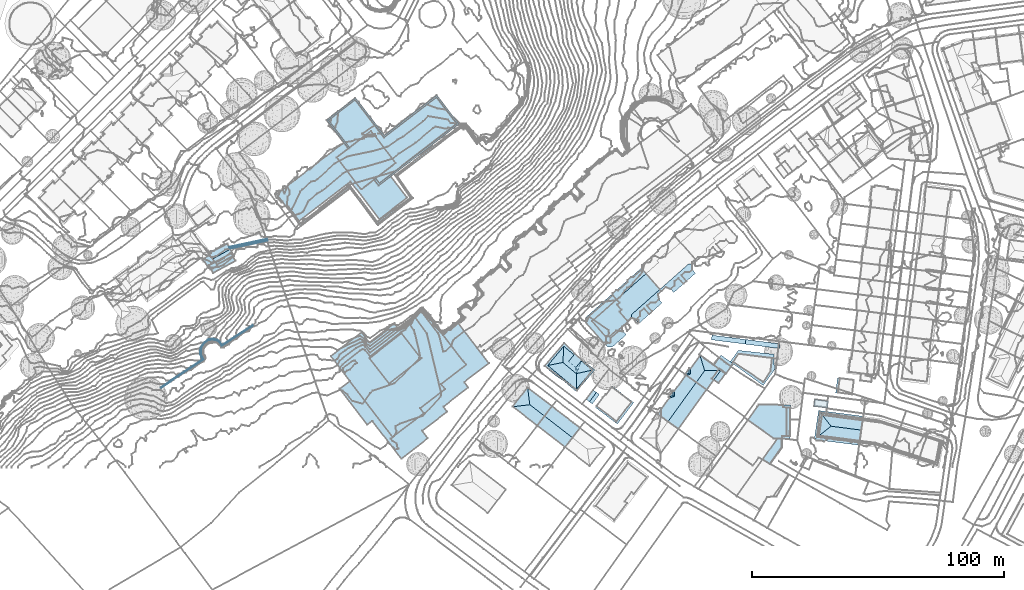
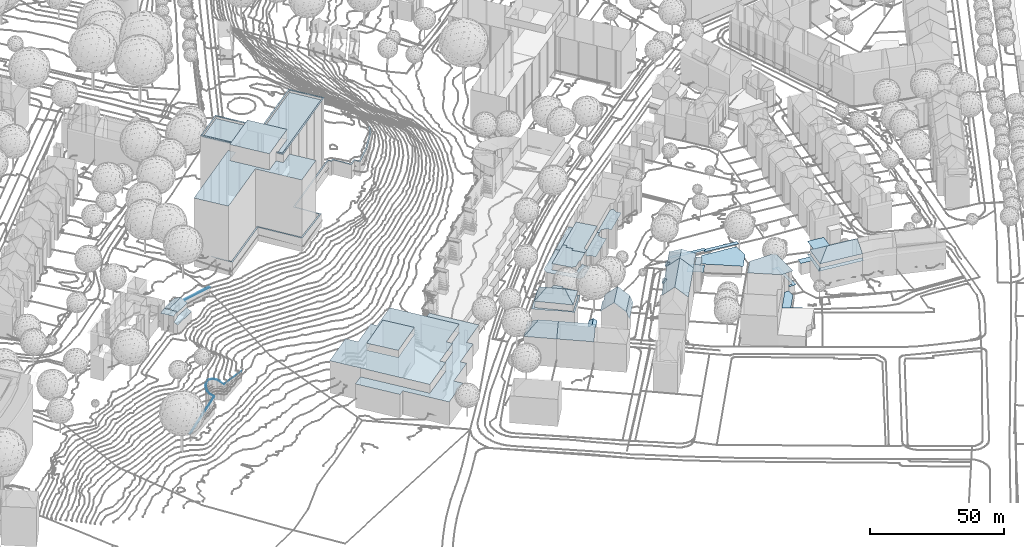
# Not in any storey, part 65 of 494: 38 roofs.
"""IFC2X3 model written with IfcOpenShell, lengths in metres."""

from ifc_helpers import new_model, si_unit, frame, origin_with_axes, place, context, subcontext, project, faceted_brep, element, save


model = new_model("IFC2X3")

# Units and contexts
model_context = context("Model", 3, precision=1e-05, world=origin_with_axes())
body_context = subcontext(model_context, "Body", "Model", "MODEL_VIEW")
ifc_project = project(units=[si_unit("AREAUNIT", "SQUARE_METRE"), si_unit("LENGTHUNIT", "METRE")], contexts=[model_context])

# Roofs
roof_1_placement = place(None, frame((340.8067320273, 67.2771160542, 499.5586), z_axis=(0.0, 0.0, 1.0), x_axis=(1.0, 0.0, 0.0)))
element("IfcRoof", 1, at=roof_1_placement, Name="Roof 0", ShapeType="NOTDEFINED", context=body_context, shape_type="Brep", body=[
    faceted_brep([(18.5399999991, -1.9267000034, 12.5587), (18.0460000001, 0.2822999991, 12.5587), (15.7719999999, -6.5732000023, 12.5587), (19.6270000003, -3.1523000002, 12.5587), (10.3849999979, -11.3564000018, 12.5587), (7.5209999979, -7.7851000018, 12.5587), (19.4529999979, 1.5312999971, 12.5587), (18.8200000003, 2.2441999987, 12.5587), (7.5929999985, -9.2568000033, 12.5587), (8.8339999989, -9.6103000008, 12.5587)], [[[0, 1, 2]], [[3, 0, 2]], [[4, 2, 5]], [[6, 7, 1]], [[1, 7, 5]], [[2, 1, 5]], [[5, 8, 9]], [[5, 9, 4]]]),
])
roof_2_placement = place(None, frame((340.8067320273, 67.2771160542, 499.5586), z_axis=(0.0, 0.0, 1.0), x_axis=(1.0, 0.0, 0.0)))
element("IfcRoof", 2, at=roof_2_placement, Name="Roof 1", ShapeType="NOTDEFINED", context=body_context, shape_type="Brep", body=[
    faceted_brep([(5.9439999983, 5.8046999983, 12.5588), (1.6530000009, -1.8671000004, 12.5588), (13.2949999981, 8.4668999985, 12.5588), (1.4869999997, 1.8486999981, 12.5588), (-0.262000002, 0.2959999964, 12.5588), (7.3550000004, 7.0566999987, 12.5588), (11.3770000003, 10.6269999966, 12.5588)], [[[0, 1, 2]], [[3, 4, 1]], [[5, 2, 6]], [[3, 1, 0]], [[0, 2, 5]]]),
])
roof_3_placement = place(None, frame((340.8067320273, 67.2771160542, 499.5586), z_axis=(0.0, 0.0, 1.0), x_axis=(1.0, 0.0, 0.0)))
element("IfcRoof", 3, at=roof_3_placement, Name="Roof 2", ShapeType="NOTDEFINED", context=body_context, shape_type="Brep", body=[
    faceted_brep([(13.2949999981, 8.4667999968, 15.3595), (1.6530000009, -1.8671000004, 15.3595), (2.7839999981, -3.1435000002, 15.3595), (7.5209999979, -7.7851000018, 15.3595), (18.8200000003, 2.2441999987, 15.3595), (3.6270000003, -5.9501000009, 15.3595), (6.2359999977, -10.5556000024, 15.3595), (7.5969999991, -9.3476000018, 15.3595), (2.8039999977, -6.6796000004, 15.3595), (1.862999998, -3.9589000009, 15.3595)], [[[0, 1, 2]], [[3, 4, 5]], [[0, 5, 4]], [[2, 5, 0]], [[3, 6, 7]], [[5, 8, 3]], [[3, 8, 6]], [[5, 2, 9]]]),
])
roof_4_placement = place(None, frame((330.2977320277, 56.1951160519, 500.0165), z_axis=(0.0, 0.0, 1.0), x_axis=(1.0, 0.0, 0.0)))
element("IfcRoof", 4, at=roof_4_placement, Name="Roof 0", ShapeType="NOTDEFINED", context=body_context, shape_type="Brep", body=[
    faceted_brep([(2.4809999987, 0.6220999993, 12.1009), (12.1620000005, 9.2149000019, 12.1009), (10.2469999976, 11.3779000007, 12.1009), (12.6629999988, -3.0986000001, 12.1008), (14.3640000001, -2.9472000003, 12.1008), (14.3189999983, -1.6279000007, 12.1008), (15.9149999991, -4.6942999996, 12.1008), (12.0229999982, -3.1611000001, 12.1008), (10.5579999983, -9.4501999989, 12.1008), (-0.0140000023, 2.2705000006, 12.1009), (-0.120000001, 0.134800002, 12.1009), (7.6979999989, -5.254900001, 12.1008), (9.4509999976, -5.4442999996, 12.1008), (6.9910000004, -7.8768999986, 12.1008), (8.5199999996, -9.5995999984, 12.1008)], [[[0, 1, 2]], [[3, 4, 5]], [[4, 3, 6]], [[6, 3, 7]], [[7, 8, 6]], [[0, 9, 10]], [[9, 0, 2]], [[0, 10, 11]], [[12, 11, 8]], [[8, 13, 14]], [[13, 8, 11]], [[11, 10, 13]], [[12, 8, 7]]]),
])
roof_5_placement = place(None, frame((330.2977320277, 56.1951160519, 500.0165), z_axis=(0.0, 0.0, 1.0), x_axis=(1.0, 0.0, 0.0)))
element("IfcRoof", 5, at=roof_5_placement, Name="Roof 1", ShapeType="NOTDEFINED", context=body_context, shape_type="Brep", body=[
    faceted_brep([(12.1620000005, 9.2149000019, 14.9016), (12.3719999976, 7.1231000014, 14.9016), (13.2929999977, 7.938500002, 14.9016), (2.4809999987, 0.6220999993, 14.9016), (14.1359999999, 5.1319000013, 14.9016), (13.3129999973, 4.4024000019, 14.9016), (12.0229999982, -3.1611000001, 14.9016), (7.6979999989, -5.254900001, 14.9016), (12.6629999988, -3.0986000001, 14.9016), (9.4509999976, -5.4442999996, 14.9016), (16.7449999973, 0.5263999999, 14.9016)], [[[0, 1, 2]], [[1, 0, 3]], [[4, 1, 5]], [[1, 3, 5]], [[6, 3, 7]], [[8, 5, 6]], [[6, 7, 9]], [[8, 10, 5]], [[6, 5, 3]]]),
])
roof_6_placement = place(None, frame((352.5117320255, 77.5340160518, 499.5586), z_axis=(0.0, 0.0, 1.0), x_axis=(1.0, 0.0, 0.0)))
element("IfcRoof", 6, at=roof_6_placement, Name="Roof 0", ShapeType="NOTDEFINED", context=body_context, shape_type="Brep", body=[
    faceted_brep([(21.1750000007, -1.6455000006, 12.5587), (19.9140000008, -0.2245999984, 12.5587), (16.4270000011, -5.8603999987, 12.5587), (11.4640000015, -8.0742000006, 12.5587), (12.5510000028, -9.2998000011, 12.5587), (9.3599999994, -7.2949000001, 12.5587), (19.8509999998, 1.9219000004, 12.5587), (18.5270000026, 2.1182000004, 12.5587), (7.1150000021, -8.0126999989, 12.5587), (7.7479999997, -8.7256000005, 12.5587)], [[[0, 1, 2]], [[2, 3, 4]], [[3, 2, 1]], [[5, 1, 6]], [[5, 6, 7]], [[5, 3, 1]], [[8, 9, 5]], [[5, 7, 8]]]),
])
roof_7_placement = place(None, frame((388.6417320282, 40.6092160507, 499.4665), z_axis=(0.0, 0.0, 1.0), x_axis=(1.0, 0.0, 0.0)))
element("IfcRoof", 7, at=roof_7_placement, Name="Roof 0", ShapeType="NOTDEFINED", context=body_context, shape_type="Brep", body=[
    faceted_brep([(2.0449999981, 4.6855000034, 5.8824), (-1.2030000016, 0.1748000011, 5.8824), (11.8759999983, -9.2441999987, 5.8824), (16.3559999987, -3.0253999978, 5.8824), (16.0639999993, 3.1279000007, 5.8824)], [[[0, 1, 2]], [[0, 3, 4]], [[3, 0, 2]]]),
])
roof_8_placement = place(None, frame((369.4907320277, 35.7234160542, 499.6315), z_axis=(0.0, 0.0, 1.0), x_axis=(1.0, 0.0, 0.0)))
element("IfcRoof", 8, at=roof_8_placement, Name="Roof 0", ShapeType="NOTDEFINED", context=body_context, shape_type="Brep", body=[
    faceted_brep([(13.6149999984, 2.3232999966, 12.0918), (13.4670000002, 2.1171999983, 12.0918), (14.1779999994, 1.6035999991, 12.0918), (16.2009999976, 0.4609999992, 12.0918), (13.237999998, -3.6523000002, 12.0918), (11.3649999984, -2.3027000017, 12.0918)], [[[0, 1, 2]], [[3, 2, 4]], [[2, 3, 0]], [[5, 4, 2]]]),
])
roof_9_placement = place(None, frame((369.4907320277, 35.7234160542, 499.6315), z_axis=(0.0, 0.0, 1.0), x_axis=(1.0, 0.0, 0.0)))
element("IfcRoof", 9, at=roof_9_placement, Name="Roof 1", ShapeType="NOTDEFINED", context=body_context, shape_type="Brep", body=[
    faceted_brep([(19.2829999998, 4.0986999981, 5.3015), (16.2009999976, 0.4609999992, 5.3015), (16.4129999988, -0.004800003, 5.3015), (13.6149999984, 2.3232999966, 5.3015), (16.0519999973, 0.2548999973, 5.3015), (14.3460000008, 7.6523999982, 5.3015), (11.4210000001, 3.5898999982, 5.3015), (13.4670000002, 2.1171999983, 5.3015)], [[[0, 1, 2]], [[1, 0, 3]], [[4, 2, 1]], [[5, 3, 0]], [[3, 6, 7]], [[6, 3, 5]]]),
])
roof_10_placement = place(None, frame((369.4907320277, 35.7234160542, 499.6315), z_axis=(0.0, 0.0, 1.0), x_axis=(1.0, 0.0, 0.0)))
element("IfcRoof", 10, at=roof_10_placement, Name="Roof 2", ShapeType="NOTDEFINED", context=body_context, shape_type="Brep", body=[
    faceted_brep([(7.8079999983, 1.5029999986, 18.1722), (2.1369999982, 0.1005999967, 14.9805), (4.4399999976, -3.1738000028, 18.1722), (8.5969999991, -6.1464000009, 13.9786), (14.1779999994, 1.6035999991, 13.9786), (5.9979999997, 7.495199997, 13.9786), (11.4210000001, 3.5898999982, 13.9786), (2.1679999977, 2.1728999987, 13.9786), (0.5480000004, -0.3916000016, 14.1346), (1.6199999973, 0.4736999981, 14.9805), (0.0249999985, -0.0175000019, 14.1326), (1.7650000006, 2.4628999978, 13.9786), (1.6469999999, 2.5478999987, 13.9786), (0.0, 0.0, 14.1066), (-0.1240000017, 0.0888999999, 13.9786)], [[[0, 1, 2]], [[2, 3, 0]], [[4, 0, 3]], [[5, 0, 6]], [[0, 4, 6]], [[0, 5, 7]], [[0, 7, 1]], [[8, 2, 1]], [[1, 9, 8]], [[10, 8, 9]], [[9, 1, 11]], [[11, 1, 7]], [[11, 12, 9]], [[12, 10, 9]], [[13, 10, 12]], [[14, 13, 12]]]),
])
roof_11_placement = place(None, frame((313.8287320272, 39.0809160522, 500.1915), z_axis=(0.0, 0.0, 1.0), x_axis=(1.0, 0.0, 0.0)))
element("IfcRoof", 11, at=roof_11_placement, Name="Roof 0", ShapeType="NOTDEFINED", context=body_context, shape_type="Brep", body=[
    faceted_brep([(7.5929999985, 7.8104999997, 14.0566), (7.2650000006, 1.3905999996, 17.9583), (11.6629999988, 4.4257000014, 14.0566), (1.2569999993, 0.1981999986, 14.4256), (12.5889999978, -3.0401000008, 17.9583), (12.5839999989, -9.2294999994, 14.4256), (9.4979999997, 1.8242000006, 16.6284), (12.3999999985, -0.5909000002, 16.6284), (9.8539999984, 2.2518999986, 16.2054), (14.7749999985, 2.2626999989, 15.1405), (14.9639999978, 2.4891999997, 15.0225), (12.0370000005, 4.8768999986, 15.0365), (14.5649999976, 2.0106999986, 15.2725), (11.6629999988, 4.4257000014, 15.2725), (12.0599999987, 4.9052000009, 15.0225), (13.3819999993, 0.5888000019, 15.8135), (14.5649999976, 2.0106999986, 14.8316), (18.2580000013, -1.0645000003, 14.1746), (18.8499999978, -1.628899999, 14.0986), (18.9189999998, -1.6143000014, 14.0566), (18.881000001, -1.6592000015, 14.0586)], [[[0, 1, 2]], [[0, 3, 1]], [[1, 3, 4]], [[5, 4, 3]], [[6, 1, 7]], [[4, 7, 1]], [[8, 2, 1]], [[1, 6, 8]], [[9, 10, 11]], [[7, 12, 13]], [[9, 13, 12]], [[14, 11, 10]], [[13, 6, 7]], [[11, 13, 9]], [[7, 4, 15]], [[16, 15, 4]], [[16, 4, 17]], [[17, 18, 19]], [[18, 17, 4]], [[4, 5, 18]], [[20, 19, 18]], [[20, 18, 5]]]),
])
roof_12_placement = place(None, frame((313.8287320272, 39.0809160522, 500.1915), z_axis=(0.0, 0.0, 1.0), x_axis=(1.0, 0.0, 0.0)))
element("IfcRoof", 12, at=roof_12_placement, Name="Roof 1", ShapeType="NOTDEFINED", context=body_context, shape_type="Brep", body=[
    faceted_brep([(12.0370000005, 4.8768999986, 11.5769), (12.0599999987, 4.9052000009, 11.5769), (10.4340000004, 6.7362999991, 11.5769), (7.5929999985, 7.8104999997, 11.5769), (11.6629999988, 4.4257000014, 11.5769), (14.9639999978, 2.4891999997, 11.5769), (7.7670000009, 8.9550000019, 11.5769), (14.7749999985, 2.2626999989, 11.5769), (16.6689999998, 1.0683000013, 11.5769), (14.5649999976, 2.0106999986, 11.5769), (19.8640000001, -1.5888999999, 11.5769), (18.2580000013, -1.0645000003, 11.5769), (7.5520000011, 9.1356999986, 11.5769), (7.7769999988, -6.1495000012, 11.5769), (1.2569999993, 0.1981999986, 11.5769), (4.6079999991, -4.053799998, 11.5769), (-0.137000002, -0.1055000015, 11.5769), (12.5839999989, -9.2294999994, 11.5769), (18.881000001, -1.6592000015, 11.5769), (12.6770000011, -10.2265999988, 11.5769)], [[[0, 1, 2]], [[2, 3, 4]], [[1, 0, 5]], [[4, 0, 2]], [[3, 2, 6]], [[5, 7, 8]], [[5, 0, 7]], [[9, 8, 7]], [[10, 8, 11]], [[6, 12, 3]], [[13, 14, 15]], [[14, 16, 15]], [[14, 3, 12]], [[14, 13, 17]], [[12, 16, 14]], [[11, 18, 10]], [[17, 13, 19]], [[19, 10, 17]], [[17, 10, 18]], [[9, 11, 8]]]),
])
roof_13_placement = place(None, frame((207.679732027, 107.243916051, 526.7712), z_axis=(0.0, 0.0, 1.0), x_axis=(1.0, 0.0, 0.0)))
element("IfcRoof", 13, at=roof_13_placement, Name="Roof 0", ShapeType="NOTDEFINED", context=body_context, shape_type="Brep", body=[
    faceted_brep([(40.6779999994, 4.3300999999, 33.9067), (47.1919999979, 12.3399000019, 33.9067), (39.2280000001, 6.2159000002, 33.9067), (71.3779999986, 27.9375, 33.9066), (20.5119999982, 29.2872000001, 33.9067), (28.8579999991, 18.4317000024, 33.9067), (37.4360000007, 25.0274000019, 33.9067), (42.5370000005, 22.4581000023, 33.9067), (63.3079999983, 38.4307000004, 33.9067), (31.0529999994, 37.3925999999, 33.9067)], [[[0, 1, 2]], [[1, 0, 3]], [[4, 5, 6]], [[6, 1, 7]], [[1, 8, 7]], [[8, 1, 3]], [[7, 9, 6]], [[6, 9, 4]]]),
])
roof_14_placement = place(None, frame((207.679732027, 107.243916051, 526.7712), z_axis=(0.0, 0.0, 1.0), x_axis=(1.0, 0.0, 0.0)))
element("IfcRoof", 14, at=roof_14_placement, Name="Roof 1", ShapeType="NOTDEFINED", context=body_context, shape_type="Brep", body=[
    faceted_brep([(47.1919999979, 12.3399000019, 38.4992), (37.4360000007, 25.0274000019, 38.4992), (23.7820000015, 14.5263999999, 38.4992), (33.5379999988, 1.8399000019, 38.4992)], [[[0, 1, 2]], [[2, 3, 0]]]),
])
roof_15_placement = place(None, frame((207.679732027, 107.243916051, 526.7712), z_axis=(0.0, 0.0, 1.0), x_axis=(1.0, 0.0, 0.0)))
element("IfcRoof", 15, at=roof_15_placement, Name="Roof 2", ShapeType="NOTDEFINED", context=body_context, shape_type="Brep", body=[
    faceted_brep([(63.3889999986, 39.2862000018, 34.8936), (55.8299999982, 33.4737000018, 34.8936), (63.3079999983, 38.4307000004, 34.8936), (55.4890000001, 33.2110000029, 34.8936), (72.2039999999, 27.8203999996, 34.8936), (42.5370000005, 22.4581000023, 34.8936), (49.7219999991, 28.7745000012, 34.8936), (42.6160000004, 23.3106000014, 34.8936), (71.3779999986, 27.9375, 34.8936), (40.6779999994, 4.3300999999, 34.8936), (61.5009999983, 19.5899000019, 34.8936), (52.5949999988, 12.7413000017, 34.8936), (32.5469999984, 36.4043000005, 34.8936), (31.0529999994, 37.3925999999, 34.8936), (31.1640000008, 38.202200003, 34.8936), (20.5119999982, 29.2872000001, 34.8936), (19.7069999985, 29.389700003, 34.8936), (28.4019999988, 18.0821000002, 34.8936), (28.8579999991, 18.4317000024, 34.8936), (40.4290000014, 3.3858000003, 34.8936), (39.2280000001, 6.2159000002, 34.8936), (38.6160000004, 5.7432000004, 34.8936)], [[[0, 1, 2]], [[3, 2, 1]], [[0, 2, 4]], [[5, 2, 6]], [[7, 5, 6]], [[6, 2, 3]], [[8, 9, 10]], [[8, 4, 2]], [[4, 8, 10]], [[11, 10, 9]], [[7, 12, 13]], [[14, 13, 12]], [[15, 13, 16]], [[17, 15, 16]], [[16, 13, 14]], [[17, 18, 15]], [[19, 11, 9]], [[20, 21, 9]], [[19, 9, 21]], [[13, 5, 7]]]),
])
roof_16_placement = place(None, frame((207.679732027, 107.243916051, 526.7712), z_axis=(0.0, 0.0, 1.0), x_axis=(1.0, 0.0, 0.0)))
element("IfcRoof", 16, at=roof_16_placement, Name="Roof 3", ShapeType="NOTDEFINED", context=body_context, shape_type="Brep", body=[
    faceted_brep([(51.7039999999, -1.4736000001, 31.2029), (45.1660000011, 7.0274000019, 31.2029), (40.4290000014, 3.3858000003, 31.2029), (40.7190000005, -9.9217999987, 31.2029), (13.5229999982, 10.5205000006, 31.2029), (29.2599999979, 4.9786000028, 31.2029), (23.7820000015, 14.5263999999, 31.2029), (38.6160000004, 5.7432000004, 31.2029), (33.5379999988, 1.8399000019, 31.2029), (-0.057, 0.0752000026, 31.2029), (8.4690000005, -11.0126999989, 31.2029), (7.1279999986, 5.6006000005, 31.2029), (7.5779999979, 5.9483000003, 31.2029), (28.4019999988, 18.0821000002, 31.2029), (26.5260000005, 20.5205000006, 31.2029), (13.1909999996, 10.264700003, 31.2029)], [[[0, 1, 2]], [[0, 2, 3]], [[4, 5, 6]], [[2, 7, 8]], [[5, 8, 6]], [[3, 8, 5]], [[8, 3, 2]], [[9, 10, 11]], [[12, 10, 5]], [[6, 13, 14]], [[4, 6, 14]], [[15, 5, 4]], [[12, 11, 10]], [[15, 12, 5]]]),
])
roof_17_placement = place(None, frame((211.8297320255, 101.9383160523, 526.7541), z_axis=(0.0, 0.0, 1.0), x_axis=(1.0, 0.0, 0.0)))
element("IfcRoof", 17, at=roof_17_placement, Name="Roof 53", ShapeType="NOTDEFINED", context=body_context, shape_type="Brep", body=[
    faceted_brep([(181.8260000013, -52.3467000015, -22.4111), (181.5910000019, -54.183600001, -22.2671), (195.4570000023, -54.0927999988, -22.4111), (195.2220000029, -55.9296999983, -22.2671)], [[[0, 1, 2]], [[3, 2, 1]]]),
])
roof_18_placement = place(None, frame((211.8297320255, 101.9383160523, 526.7541), z_axis=(0.0, 0.0, 1.0), x_axis=(1.0, 0.0, 0.0)))
element("IfcRoof", 18, at=roof_18_placement, Name="Roof 54", ShapeType="NOTDEFINED", context=body_context, shape_type="Brep", body=[
    faceted_brep([(182.0930000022, -54.2481000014, -21.5472), (182.3289999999, -52.4101999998, -21.8351), (168.1480000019, -52.4618999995, -21.5471), (168.3830000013, -50.625, -21.8351)], [[[0, 1, 2]], [[3, 2, 1]]]),
])
roof_19_placement = place(None, frame((211.8297320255, 101.9383160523, 526.7541), z_axis=(0.0, 0.0, 1.0), x_axis=(1.0, 0.0, 0.0)))
element("IfcRoof", 19, at=roof_19_placement, Name="Roof 55", ShapeType="NOTDEFINED", context=body_context, shape_type="Brep", body=[
    faceted_brep([(68.9820000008, 31.8183000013, 6.5044), (42.7239999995, 12.7030999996, 6.2064), (43.5920000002, 12.5654000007, 6.2064), (69.0769999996, 32.6875, 6.5044), (24.8300000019, 7.7958999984, 6.2064), (35.5850000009, -6.5419999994, 6.2064), (35.7190000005, -5.6611999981, 6.2064), (5.2149999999, -7.1689999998, 6.2064), (5.3460000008, -6.2685999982, 6.2064), (0.0, 0.0, 6.2064), (0.5140000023, 0.3740000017, 6.2064), (24.9539999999, 8.6893999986, 6.2064), (48.870000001, 3.8192999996, 6.2064), (49.7470000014, 3.6680000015, 6.2064), (75.2160000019, 25.1708999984, 6.5044), (75.3410000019, 26.0830000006, 6.5044), (70.7380000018, 31.3691000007, 6.5044), (77.5540000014, 27.0381000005, 6.5044), (70.8990000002, 32.2324000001, 6.5044), (69.8550000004, 30.7969000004, 6.5044), (69.9759999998, 31.6328000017, 6.5044), (78.9220000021, 25.1425999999, 6.5044), (79.0080000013, 26.1094000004, 6.5044), (85.6270000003, 31.621100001, 6.5044), (85.1559999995, 32.0498000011, 6.5044), (91.6669999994, 40.2412, 6.5044), (92.2200000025, 39.9149999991, 6.5044), (93.6900000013, 43.4589999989, 6.5044), (77.6790000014, 27.9521000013, 6.5044), (93.1030000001, 43.7021000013, 6.5044)], [[[0, 1, 2]], [[3, 1, 0]], [[4, 5, 6]], [[7, 4, 8]], [[9, 8, 10]], [[8, 9, 7]], [[8, 4, 11]], [[5, 12, 6]], [[12, 5, 13]], [[12, 13, 2]], [[12, 2, 1]], [[11, 4, 6]], [[14, 15, 16]], [[17, 15, 14]], [[15, 18, 16]], [[0, 19, 20]], [[20, 19, 16]], [[20, 3, 0]], [[16, 18, 20]], [[17, 21, 22]], [[23, 24, 22]], [[24, 23, 25]], [[25, 26, 27]], [[26, 25, 23]], [[17, 22, 28]], [[25, 27, 29]], [[17, 28, 15]], [[23, 22, 21]]]),
])
roof_20_placement = place(None, frame((211.8297320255, 101.9383160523, 526.7541), z_axis=(0.0, 0.0, 1.0), x_axis=(1.0, 0.0, 0.0)))
element("IfcRoof", 20, at=roof_20_placement, Name="Roof 56", ShapeType="NOTDEFINED", context=body_context, shape_type="Brep", body=[
    faceted_brep([(122.5380000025, -73.3037, -20.3052), (121.2270000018, -72.3379000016, -21.2761), (118.4670000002, -76.0830000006, -21.2761), (119.7790000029, -77.0487999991, -20.3052), (123.6960000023, -74.1563000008, -21.2761), (120.9370000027, -77.9013999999, -21.2761)], [[[0, 1, 2]], [[2, 3, 0]], [[4, 0, 5]], [[0, 3, 5]]]),
])
roof_21_placement = place(None, frame((211.8297320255, 101.9383160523, 526.7541), z_axis=(0.0, 0.0, 1.0), x_axis=(1.0, 0.0, 0.0)))
element("IfcRoof", 21, at=roof_21_placement, Name="Roof 57", ShapeType="NOTDEFINED", context=body_context, shape_type="Brep", body=[
    faceted_brep([(-23.0159999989, -15.6611000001, 3.1257), (-22.9919999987, -15.7754000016, 3.1257), (-7.9979999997, -12.4395000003, 3.0267), (-22.7009999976, -16.3310999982, 3.1247), (-7.8469999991, -13.1435999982, 3.0267)], [[[0, 1, 2]], [[1, 3, 4]], [[4, 2, 1]]]),
])
roof_22_placement = place(None, frame((211.8297320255, 101.9383160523, 526.7541), z_axis=(0.0, 0.0, 1.0), x_axis=(1.0, 0.0, 0.0)))
element("IfcRoof", 22, at=roof_22_placement, Name="Roof 58", ShapeType="NOTDEFINED", context=body_context, shape_type="Brep", body=[
    faceted_brep([(-27.7089999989, -52.5527999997, -8.0502), (-29.6769999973, -52.0634999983, -7.3303), (-29.6919999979, -52.4120999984, -7.3303), (-31.5610000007, -52.3574000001, -6.8983), (-31.4149999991, -52.6816999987, -6.8983), (-32.8939999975, -53.9004000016, -6.7544), (-33.1439999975, -53.6620999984, -6.7544), (-34.2329999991, -55.125, -7.1863), (-26.0409999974, -54.9580000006, -9.6341), (-26.367999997, -53.6319000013, -9.2021), (-26.6359999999, -53.8544999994, -9.2021), (-27.8649999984, -52.8671999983, -8.0502), (-13.8379999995, -46.5898999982, -12.6568), (-25.9169999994, -54.4677999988, -9.6341), (-13.6510000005, -46.8759999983, -12.6568), (-34.2349999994, -56.6416000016, -7.9062), (-34.6169999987, -58.1572000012, -8.6262), (-34.2729999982, -58.0879000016, -8.6262), (-34.5759999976, -56.5976999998, -7.9062), (-33.7829999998, -59.1513999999, -8.9142), (-33.9159999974, -55.2714999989, -7.1863), (-33.1519999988, -60.2930000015, -9.2021), (-34.0889999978, -59.3066999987, -8.9142), (-33.6050000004, -60.182599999, -9.2021), (-50.3090000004, -71.3280999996, -13.5207), (-50.118999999, -71.6132999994, -13.5207)], [[[0, 1, 2]], [[1, 3, 2]], [[2, 3, 4]], [[3, 5, 4]], [[3, 6, 5]], [[6, 7, 5]], [[8, 9, 10]], [[9, 0, 10]], [[10, 0, 11]], [[0, 2, 11]], [[8, 12, 13]], [[9, 8, 13]], [[12, 8, 14]], [[15, 16, 17]], [[16, 15, 18]], [[16, 19, 17]], [[15, 7, 18]], [[7, 15, 20]], [[5, 7, 20]], [[21, 22, 23]], [[21, 24, 25]], [[24, 21, 23]], [[21, 19, 22]], [[16, 22, 19]]]),
])
roof_23_placement = place(None, frame((386.5667320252, 6.5633160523, 499.0235), z_axis=(0.0, 0.0, 1.0), x_axis=(1.0, 0.0, 0.0)))
element("IfcRoof", 23, at=roof_23_placement, Name="Roof 1", ShapeType="NOTDEFINED", context=body_context, shape_type="Brep", body=[
    faceted_brep([(16.6450000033, -6.1513999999, 5.3904), (13.6840000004, -4.6748000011, 5.3905), (21.1600000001, -8.9180000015, 5.3904), (19.6400000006, 3.691399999, 5.3905), (21.2810000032, 0.3359000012, 5.3905), (21.393000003, 3.6981999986, 5.3905)], [[[0, 1, 2]], [[1, 0, 3]], [[3, 0, 4]], [[3, 4, 5]]]),
])
roof_24_placement = place(None, frame((394.4647320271, 17.5984160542, 499.0235), z_axis=(0.0, 0.0, 1.0), x_axis=(1.0, 0.0, 0.0)))
element("IfcRoof", 24, at=roof_24_placement, Name="Roof 0", ShapeType="NOTDEFINED", context=body_context, shape_type="Brep", body=[
    faceted_brep([(13.6490000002, -6.4091000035, 7.1923), (13.6359999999, -7.3623000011, 7.1923), (15.3619999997, -6.4326000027, 7.1923), (13.938000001, 5.995199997, 7.1923), (13.9409999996, 5.0370999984, 7.1923), (15.4910000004, 5.0146999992, 7.1923), (16.6469999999, -7.3974000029, 7.1923), (16.7989999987, 5.9619999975, 7.1923)], [[[0, 1, 2]], [[3, 4, 5]], [[6, 2, 1]], [[2, 6, 5]], [[7, 5, 6]], [[5, 7, 3]]]),
])
roof_25_placement = place(None, frame((394.4647320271, 17.5984160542, 499.0235), z_axis=(0.0, 0.0, 1.0), x_axis=(1.0, 0.0, 0.0)))
element("IfcRoof", 25, at=roof_25_placement, Name="Roof 1", ShapeType="NOTDEFINED", context=body_context, shape_type="Brep", body=[
    faceted_brep([(15.5020000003, 5.9775999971, 13.8347), (10.2760000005, -7.3496000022, 13.8346), (11.8350000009, -7.3427000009, 13.8346), (3.7740000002, 5.2734999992, 13.8347), (0.0, 0.0, 13.8347), (4.3720000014, 6.1025999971, 13.8347), (15.3509999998, -7.3828000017, 13.8346)], [[[0, 1, 2]], [[3, 1, 0]], [[1, 3, 4]], [[5, 3, 0]], [[2, 6, 0]]]),
])
roof_26_placement = place(None, frame((420.8027320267, 23.1951160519, 499.3155), z_axis=(0.0, 0.0, 1.0), x_axis=(1.0, 0.0, 0.0)))
element("IfcRoof", 26, at=roof_26_placement, Name="Roof 0", ShapeType="NOTDEFINED", context=body_context, shape_type="Brep", body=[
    faceted_brep([(5.2309999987, -0.7802999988, 5.3154), (5.5839999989, 1.9297000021, 5.3154), (0.1429999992, 2.6358000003, 5.3154), (-0.2089999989, -0.0742000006, 5.3154)], [[[0, 1, 2]], [[2, 3, 0]]]),
])
roof_27_placement = place(None, frame((310.929732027, 15.368916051, 513.3392), z_axis=(0.0, 0.0, 1.0), x_axis=(1.0, 0.0, 0.0)))
element("IfcRoof", 27, at=roof_27_placement, Name="Roof 0", ShapeType="NOTDEFINED", context=body_context, shape_type="Brep", body=[
    faceted_brep([(2.9210000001, 3.8106000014, 4.7546), (0.0, 0.0, 0.0), (13.9970000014, -4.753899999, 4.7545), (11.0769999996, -8.5653999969, 0.0), (5.8640000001, 7.6495000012, 0.0), (16.938000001, -0.9149999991, 0.0)], [[[0, 1, 2]], [[3, 2, 1]], [[4, 0, 5]], [[2, 5, 0]]]),
])
roof_28_placement = place(None, frame((301.1767320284, 22.9119160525, 500.5715), z_axis=(0.0, 0.0, 1.0), x_axis=(1.0, 0.0, 0.0)))
element("IfcRoof", 28, at=roof_28_placement, Name="Roof 0", ShapeType="NOTDEFINED", context=body_context, shape_type="Brep", body=[
    faceted_brep([(15.6140000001, 0.1026000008, 12.7677), (5.8959999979, 7.6240000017, 12.7677), (6.7850000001, 0.8222999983, 17.5223), (12.6739999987, -3.7324000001, 17.5223), (0.0, 0.0, 12.7677), (9.7529999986, -7.5430000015, 12.7677), (5.8659999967, 7.5850000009, 12.7677)], [[[0, 1, 2]], [[0, 2, 3]], [[2, 4, 5]], [[5, 3, 2]], [[6, 4, 2]], [[6, 2, 1]]]),
])
roof_29_placement = place(None, frame((334.417732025, 23.1512160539, 500.1795), z_axis=(0.0, 0.0, 1.0), x_axis=(1.0, 0.0, 0.0)))
element("IfcRoof", 29, at=roof_29_placement, Name="Roof 0", ShapeType="NOTDEFINED", context=body_context, shape_type="Brep", body=[
    faceted_brep([(-0.5009999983, -0.4219000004, 13.2127), (3.6270000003, 4.75, 13.3377), (3.5090000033, 4.8398000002, 13.2127), (3.8630000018, 4.5702999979, 13.5857), (3.643000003, -3.5791000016, 17.5753), (10.1530000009, 4.9648000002, 17.5753), (6.0840000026, 7.4862999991, 13.5847), (6.3630000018, 7.8524999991, 13.5847), (13.7890000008, 2.1932999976, 13.8926), (7.2800000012, -6.3506000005, 13.8926), (14.7580000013, 1.4540999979, 10.7259), (9.7420000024, -3.7803000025, 12.8497), (8.2490000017, -7.0879000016, 10.7259)], [[[0, 1, 2]], [[3, 1, 0]], [[0, 4, 3]], [[5, 6, 3]], [[6, 5, 7]], [[5, 3, 4]], [[5, 4, 8]], [[4, 9, 8]], [[10, 8, 11]], [[9, 11, 8]], [[11, 9, 12]], [[10, 11, 12]]]),
])
roof_30_placement = place(None, frame((430.1957320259, 28.5057160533, 499.7544), z_axis=(0.0, 0.0, 1.0), x_axis=(1.0, 0.0, 0.0)))
element("IfcRoof", 30, at=roof_30_placement, Name="Roof 0", ShapeType="NOTDEFINED", context=body_context, shape_type="Brep", body=[
    faceted_brep([(5.6020000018, -0.9053000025, 4.9065), (-0.2100000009, 5.878899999, 4.9065), (-0.9419999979, -0.1044999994, 4.9065), (6.3350000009, 5.0790999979, 4.9065)], [[[0, 1, 2]], [[1, 0, 3]]]),
])
roof_31_placement = place(None, frame((358.3217320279, 20.123816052, 499.6315), z_axis=(0.0, 0.0, 1.0), x_axis=(1.0, 0.0, 0.0)))
element("IfcRoof", 31, at=roof_31_placement, Name="Roof 0", ShapeType="NOTDEFINED", context=body_context, shape_type="Brep", body=[
    faceted_brep([(4.3979999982, -3.1473999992, 18.1722), (15.6089999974, 12.4248000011, 18.1722), (6.9349999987, 6.8506000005, 14.9805), (8.5529999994, -6.121100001, 13.9786), (19.7679999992, 9.4550999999, 13.9786), (6.935999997, 8.884800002, 13.9786), (6.4169999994, 7.2246000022, 14.9805), (6.557, 9.1581999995, 13.9786), (6.4149999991, 8.9600000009, 14.1266), (6.4149999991, 9.259800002, 13.9786), (11.424999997, 15.1182000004, 13.9786), (11.7170000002, 15.2071000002, 14.1346), (11.193, 15.5811000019, 14.1326), (10.9039999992, 15.4932000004, 13.9786), (11.0289999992, 15.4033000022, 13.9786), (11.0449999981, 15.688500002, 13.9786), (5.0409999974, 6.2529999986, 13.9786), (0.5859999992, -0.4188999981, 14.2176), (0.5869999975, 0.066399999, 13.9786), (0.0669999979, 0.441399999, 13.9786), (0.0659999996, 0.0918000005, 14.1506), (0.231999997, 0.3233000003, 13.9786), (0.0659999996, -0.0467999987, 14.2186), (-0.1660000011, 0.1182000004, 13.9786), (0.0, 0.0, 14.1506), (4.5199999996, 6.6279999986, 13.9786), (4.6689999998, 6.5205000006, 13.9786), (4.810999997, 6.7197999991, 14.1326)], [[[0, 1, 2]], [[0, 3, 1]], [[4, 1, 3]], [[2, 1, 5]], [[6, 2, 7]], [[7, 2, 5]], [[8, 7, 9]], [[7, 8, 6]], [[5, 1, 10]], [[10, 1, 11]], [[11, 12, 10]], [[12, 13, 14]], [[12, 14, 10]], [[12, 15, 13]], [[0, 16, 17]], [[17, 16, 18]], [[19, 20, 21]], [[21, 20, 18]], [[17, 18, 20]], [[17, 20, 22]], [[20, 19, 23]], [[24, 22, 20]], [[23, 24, 20]], [[25, 26, 27]], [[27, 26, 16]], [[16, 2, 6]], [[16, 6, 27]], [[8, 9, 25]], [[27, 6, 8]], [[25, 27, 8]], [[0, 2, 16]]]),
])
roof_32_placement = place(None, frame((178.2397320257, 81.0750160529, 523.9414), z_axis=(0.0, 0.0, 1.0), x_axis=(1.0, 0.0, 0.0)))
element("IfcRoof", 32, at=roof_32_placement, Name="Roof 0", ShapeType="NOTDEFINED", context=body_context, shape_type="Brep", body=[
    faceted_brep([(12.0439999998, 1.5938000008, 5.1155), (5.7330000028, -1.8330000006, 5.1155), (5.881000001, -2.0283000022, 4.9915), (13.0890000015, -0.3300999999, 3.9956), (4.2340000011, -5.1387000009, 3.9956), (3.432, -3.6279000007, 4.8695), (3.3790000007, -3.6669999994, 4.8655), (3.5240000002, -3.8027000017, 4.7695), (4.1909999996, -5.1611000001, 3.9956)], [[[0, 1, 2]], [[3, 2, 4]], [[2, 3, 0]], [[5, 6, 7]], [[7, 8, 4]], [[8, 7, 6]], [[4, 2, 7]]]),
])
roof_33_placement = place(None, frame((178.2397320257, 81.0750160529, 523.9414), z_axis=(0.0, 0.0, 1.0), x_axis=(1.0, 0.0, 0.0)))
element("IfcRoof", 33, at=roof_33_placement, Name="Roof 1", ShapeType="NOTDEFINED", context=body_context, shape_type="Brep", body=[
    faceted_brep([(4.6799999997, -0.4354999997, 7.7243), (4.4330000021, -0.1064000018, 7.7243), (1.9230000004, -2.5557000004, 7.7243), (5.881000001, -2.0283000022, 7.7243), (3.1020000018, -4.120099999, 7.7243), (3.4840000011, 1.1543000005, 7.7243), (3.1909999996, 1.5429999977, 7.7243), (-0.0579999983, 0.0771000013, 7.7243), (2.7190000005, 2.1699000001, 7.7243), (12.3430000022, 1.7558999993, 6.8723), (12.5529999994, 1.870099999, 6.8723), (11.1440000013, 4.4706999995, 8.2762), (5.7330000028, -1.8330000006, 6.8723), (4.9279999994, -0.7637000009, 7.5243), (3.9979999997, 0.4706999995, 8.2762), (3.4539999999, 2.7236000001, 7.4013), (11.0040000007, 4.4384999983, 8.2602), (2.8990000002, 1.9307000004, 7.5243), (2.7190000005, 2.1699000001, 7.4013), (9.9110000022, 6.7392999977, 7.1743), (3.1730000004, 3.0966999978, 7.1743), (3.2140000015, 3.0429999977, 7.2073)], [[[0, 1, 2]], [[3, 0, 4]], [[4, 0, 2]], [[5, 6, 7]], [[8, 7, 6]], [[5, 7, 2]], [[5, 2, 1]], [[9, 10, 11]], [[12, 9, 11]], [[13, 12, 11]], [[0, 13, 11]], [[14, 0, 11]], [[15, 14, 16]], [[11, 16, 14]], [[6, 14, 15]], [[17, 15, 18]], [[15, 17, 6]], [[19, 16, 11]], [[16, 19, 20]], [[15, 16, 21]], [[21, 16, 20]]]),
])
roof_34_placement = place(None, frame((287.111732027, 46.2742160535, 500.3625), z_axis=(0.0, 0.0, 1.0), x_axis=(1.0, 0.0, 0.0)))
element("IfcRoof", 34, at=roof_34_placement, Name="Roof 1", ShapeType="NOTDEFINED", context=body_context, shape_type="Brep", body=[
    faceted_brep([(-45.8029999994, 6.1952999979, 14.9756), (-58.1130000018, -3.2793000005, 14.9756), (-42.6979999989, 2.1601999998, 14.9756), (-42.6830000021, -4.2099000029, 14.9756), (-29.9539999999, 5.7969000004, 14.9756), (-32.8110000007, 9.7714999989, 14.9756), (-31.2890000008, 7.7841999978, 14.9756), (-21.3819999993, 15.4032999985, 14.9756), (-13.6860000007, 5.4052999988, 14.9756), (-34.8139999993, -14.2206999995, 14.9756), (-33.4110000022, -35.375, 14.9756), (-22.550999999, -24.0175999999, 14.9756), (-21.1009999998, -25.9004000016, 14.9756), (-22.0850000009, -4.2148000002, 14.9756), (-4.3040000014, -6.7851000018, 14.9756), (-14.2050000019, -14.4053000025, 14.9756), (-12.6649999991, -16.4072000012, 14.9756)], [[[0, 1, 2]], [[2, 3, 4]], [[3, 2, 1]], [[5, 2, 6]], [[7, 6, 4]], [[7, 4, 8]], [[2, 4, 6]], [[9, 1, 10]], [[11, 10, 12]], [[10, 11, 9]], [[9, 11, 13]], [[8, 13, 14]], [[8, 4, 13]], [[15, 13, 11]], [[15, 14, 13]], [[11, 16, 15]], [[3, 1, 9]]]),
])
roof_35_placement = place(None, frame((287.111732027, 46.2742160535, 500.3625), z_axis=(0.0, 0.0, 1.0), x_axis=(1.0, 0.0, 0.0)))
element("IfcRoof", 35, at=roof_35_placement, Name="Roof 2", ShapeType="NOTDEFINED", context=body_context, shape_type="Brep", body=[
    faceted_brep([(-22.0850000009, -4.2148000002, 18.1513), (-29.9539999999, 5.7969000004, 18.1513), (-42.6830000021, -4.2099000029, 18.1513), (-34.8139999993, -14.2206999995, 18.1513)], [[[0, 1, 2]], [[2, 3, 0]]]),
])
roof_36_placement = place(None, frame((287.111732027, 46.2742160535, 500.3625), z_axis=(0.0, 0.0, 1.0), x_axis=(1.0, 0.0, 0.0)))
element("IfcRoof", 36, at=roof_36_placement, Name="Roof 3", ShapeType="NOTDEFINED", context=body_context, shape_type="Brep", body=[
    faceted_brep([(-12.6649999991, -16.4072000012, 11.038), (-13.3530000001, -23.3993999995, 11.0379), (-3.3680000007, -15.7138999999, 11.0379), (-11.8669999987, -25.3359000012, 11.0379), (-21.1009999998, -25.9004000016, 11.0379), (-5.0399999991, -13.5381000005, 11.0379), (4.6689999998, -6.067400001, 11.0379), (-4.3040000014, -6.7851000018, 11.038), (-22.550999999, -24.0175999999, 11.038), (-21.6680000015, -33.0390000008, 11.0379), (-30.0280000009, -43.9521000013, 11.0379), (-19.5040000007, -35.8525000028, 11.0379), (-11.7910000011, -25.438500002, 11.0379), (-33.4110000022, -35.375, 11.0379), (-41.4739999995, -29.0820000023, 11.038), (-14.2050000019, -14.4053000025, 11.038), (-13.5769999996, 5.2636999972, 11.038), (-7.5949999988, 9.8671999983, 11.038), (-54.5280000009, -16.2294999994, 11.038), (-43.4609999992, -30.6123000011, 11.038), (-50.5199999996, -13.1445000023, 11.038)], [[[0, 1, 2]], [[3, 1, 4]], [[5, 6, 7]], [[0, 2, 5]], [[4, 1, 8]], [[9, 10, 11]], [[3, 9, 12]], [[9, 3, 4]], [[9, 13, 10]], [[13, 9, 4]], [[13, 14, 10]], [[0, 8, 1]], [[15, 5, 7]], [[0, 5, 15]], [[16, 7, 17]], [[7, 6, 17]], [[18, 19, 14]], [[18, 14, 20]], [[13, 20, 14]]]),
])
roof_37_placement = place(None, frame((421.872732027, 10.8992160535, 499.1825), z_axis=(0.0, 0.0, 1.0), x_axis=(1.0, 0.0, 0.0)))
element("IfcRoof", 37, at=roof_37_placement, Name="Roof 0", ShapeType="NOTDEFINED", context=body_context, shape_type="Brep", body=[
    faceted_brep([(17.6270000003, 2.7470999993, 15.8974), (18.2749999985, 7.3105999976, 12.6067), (5.550999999, 4.307599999, 15.8974), (1.4210000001, 9.5878999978, 12.5357), (18.3209999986, 7.6719000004, 12.3467), (1.188000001, 9.8847999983, 12.3468), (0.0879999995, -0.0117000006, 12.4717), (-0.1110000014, -0.1689000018, 12.3468), (16.9059999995, -2.3662, 12.3467), (16.9230000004, -2.246100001, 12.4297)], [[[0, 1, 2]], [[3, 1, 4]], [[3, 2, 1]], [[5, 3, 4]], [[3, 5, 6]], [[3, 6, 2]], [[6, 5, 7]], [[6, 7, 8]], [[2, 6, 9]], [[9, 0, 2]], [[9, 6, 8]]]),
])
roof_38_placement = place(None, frame((421.872732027, 10.8992160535, 499.1825), z_axis=(0.0, 0.0, 1.0), x_axis=(1.0, 0.0, 0.0)))
element("IfcRoof", 38, at=roof_38_placement, Name="Roof 1", ShapeType="NOTDEFINED", context=body_context, shape_type="Brep", body=[
    faceted_brep([(0.0289999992, -0.1347000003, 10.4919), (-1.1110000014, -1.001000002, 9.83), (8.818, -1.2334000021, 10.4959), (16.7820000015, -3.25, 9.83), (16.9239999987, -2.246100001, 10.4999), (0.5989999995, 10.5497999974, 9.83), (1.2699999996, 9.6074000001, 10.36), (1.3150000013, 9.6015999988, 10.391), (0.0, 0.0, 10.4599), (0.0, -0.0371000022, 10.4639), (0.0020000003, -0.0752000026, 10.4689), (0.0069999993, -0.1123000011, 10.4759), (18.3999999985, 8.2344000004, 9.83), (10.5449999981, 8.3544999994, 10.4219), (18.2749999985, 7.3105999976, 10.4469), (0.0179999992, -0.1317999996, 10.4339), (0.0179999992, -0.1317999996, 10.334), (0.0289999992, -0.1347000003, 10.292), (0.0069999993, -0.1123000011, 10.276)], [[[0, 1, 2]], [[2, 3, 4]], [[3, 2, 1]], [[5, 6, 7]], [[8, 1, 9]], [[1, 8, 6]], [[6, 5, 1]], [[10, 9, 1]], [[0, 11, 1]], [[10, 1, 11]], [[12, 13, 14]], [[5, 7, 13]], [[5, 13, 12]], [[0, 15, 11]], [[16, 17, 18]]]),
])

save(model, "model.ifc")
